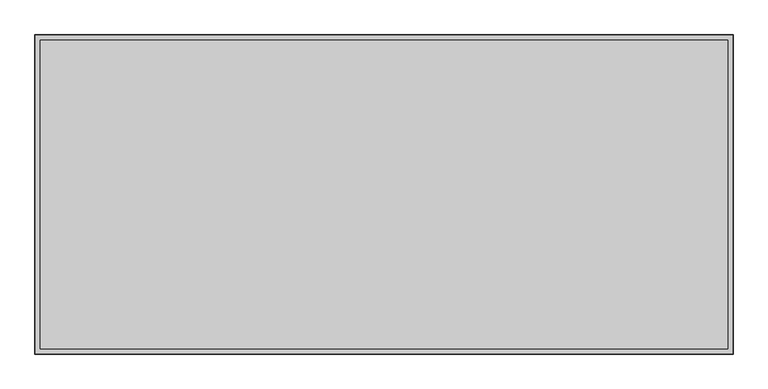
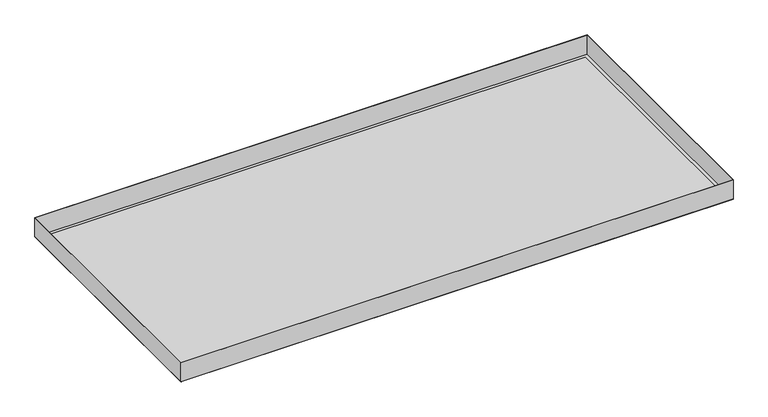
"""IFC4 building model written with IfcOpenShell, lengths in millimetres: proxy geometry, durlum_S-OM-100_panel : durlum_S-OM-100_panel_wall_width_cut."""

from ifc_helpers import new_model, si_unit, frame, origin, origin_with_axes, place, context, project, spatial, polyline, outline, extrude, source, transform, mapped, element, save


def generic_models_10fcad68(model_context):
    return source(origin(), model_context, "Body", "SweptSolid", [
        extrude(outline(polyline([(545.0, 249.5), (545.0, -249.5), (-545.0, -249.5), (-545.0, 249.5), (545.0, 249.5)]), holes=[polyline([(544.4, 248.9), (-544.4, 248.9), (-544.4, -248.9), (544.4, -248.9), (544.4, 248.9)])]), frame((0.0, 0.0, 0.6), z_axis=(0.0, 0.0, 1.0), x_axis=(1.0, 0.0, 0.0)), (0.0, 0.0, 1.0), 39.4),
        extrude(outline(polyline([(537.0, 241.5), (537.0, -241.5), (-537.0, -241.5), (-537.0, 241.5), (537.0, 241.5)])), frame((0.0, 0.0, 0.6), z_axis=(0.0, 0.0, 1.0), x_axis=(1.0, 0.0, 0.0)), (0.0, 0.0, 1.0), 0.6),
        extrude(outline(polyline([(545.0, 249.5), (545.0, -249.5), (-545.0, -249.5), (-545.0, 249.5), (545.0, 249.5)]), holes=[polyline([(537.0, 241.5), (-537.0, 241.5), (-537.0, -241.5), (537.0, -241.5), (537.0, 241.5)])]), origin_with_axes(), (0.0, 0.0, 1.0), 0.6),
        extrude(outline(polyline([(537.0, 241.5), (537.0, -241.5), (-537.0, -241.5), (-537.0, 241.5), (537.0, 241.5)])), origin_with_axes(), (0.0, 0.0, 1.0), 0.6),
    ])


if __name__ == "__main__":
    model = new_model("IFC4")
    model_context = context("Model", 3, world=origin())
    ifc_project = project(units=[si_unit("LENGTHUNIT", "METRE", prefix="MILLI")], contexts=[model_context])
    site = spatial("IfcSite", under=ifc_project)
    building = spatial("IfcBuilding", under=site)
    placement = place(None, origin())
    generic_models_shape = generic_models_10fcad68(model_context)
    element("IfcBuildingElementProxy", 1, Name="durlum_S-OM-100_panel : durlum_S-OM-100_panel_wall_width_cut", ObjectType="durlum_S-OM-100_panel : durlum_S-OM-100_panel_wall_width_cut", at=placement, inside=building, context=model_context, shape_type="MappedRepresentation", body=[
        mapped(generic_models_shape, transform((0.0, 0.0, 0.0), x_axis=(1.0, 0.0, 0.0), y_axis=(0.0, 1.0, 0.0), z_axis=(0.0, 0.0, 1.0))),
    ])
    save(model, "model.ifc")
